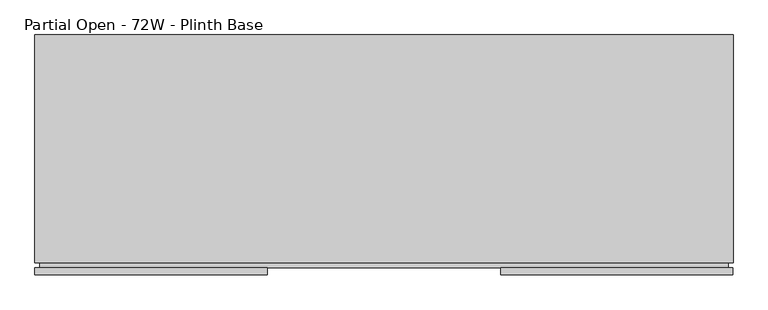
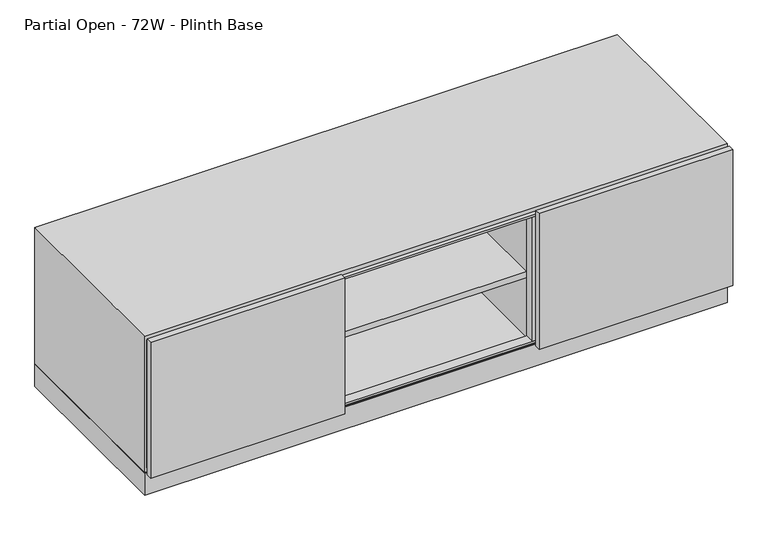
"""IFC4 building model written with IfcOpenShell, lengths in millimetres: furniture geometry, Steelcase Coalesse - Exponents - Storage - Credenza - 21H : Partial Open - 72W - Plinth Base."""

from ifc_helpers import new_model, si_unit, point, frame, frame_2d, origin, origin_with_axes, place, context, project, spatial, polyline, circle_curve, trimmed, segment, composite_curve, outline, extrude, faceted_brep, source, transform, mapped, element, save


def partial_open_72w_plinth_base_0df8217b(model_context):
    return source(origin(), model_context, "Body", "SolidModel", [
        faceted_brep([(6.35, 31.75, 520.7), (6.35, 31.75, 95.25), (6.35, 622.3, 95.25), (6.35, 622.3, 520.7), (1822.45, 622.3, 95.25), (1822.45, 622.3, 520.7), (1822.45, 31.75, 95.25), (1822.45, 31.75, 520.7), (0.0, 31.75, 82.55), (1828.8, 31.75, 82.55), (1828.8, 31.75, 533.4), (0.0, 31.75, 533.4), (1828.8, 628.65, 82.55), (1828.8, 628.65, 533.4), (0.0, 628.65, 82.55), (0.0, 628.65, 533.4)], [[[0, 1, 2, 3]], [[3, 2, 4, 5]], [[5, 4, 6, 7]], [[8, 9, 10, 11], [7, 6, 1, 0]], [[10, 9, 12, 13]], [[13, 12, 14, 15]], [[15, 14, 8, 11]], [[7, 0, 3, 5]], [[10, 13, 15, 11]], [[1, 6, 4, 2]], [[12, 9, 8, 14]]]),
        extrude(outline(polyline([(520.7, 1816.1), (520.7, 12.7), (95.25, 12.7), (95.25, 1816.1), (520.7, 1816.1)]), holes=[polyline([(514.35, 1809.75), (101.6, 1809.75), (101.6, 19.05), (514.35, 19.05), (514.35, 1809.75)])]), frame((0.0, 19.05, 0.0), z_axis=(0.0, 1.0, 0.0), x_axis=(0.0, 0.0, 1.0)), (0.0, 0.0, 1.0), 31.75),
        extrude(outline(composite_curve([segment(trimmed(circle_curve(frame_2d((19.05, 593.5667033)), 6.35), [point((12.7, 593.5667033))], [point((25.4, 593.5667033))], False, "CARTESIAN"), True, "CONTINUOUS"), segment(trimmed(circle_curve(frame_2d((19.05, 593.5667033)), 6.35), [point((25.4, 593.5667033))], [point((12.7, 593.5667033))], False, "CARTESIAN"), True, "CONTINUOUS")], self_intersect=False)), origin_with_axes(), (0.0, 0.0, 1.0), 6.35),
        extrude(outline(composite_curve([segment(trimmed(circle_curve(frame_2d((19.05, 66.7867854)), 6.35), [point((12.7, 66.7867854))], [point((25.4, 66.7867854))], False, "CARTESIAN"), True, "CONTINUOUS"), segment(trimmed(circle_curve(frame_2d((19.05, 66.7867854)), 6.35), [point((25.4, 66.7867854))], [point((12.7, 66.7867854))], False, "CARTESIAN"), True, "CONTINUOUS")], self_intersect=False)), origin_with_axes(), (0.0, 0.0, 1.0), 6.35),
        extrude(outline(composite_curve([segment(trimmed(circle_curve(frame_2d((1809.75, 593.5667033)), 6.35), [point((1803.4, 593.5667033))], [point((1816.1, 593.5667033))], False, "CARTESIAN"), True, "CONTINUOUS"), segment(trimmed(circle_curve(frame_2d((1809.75, 593.5667033)), 6.35), [point((1816.1, 593.5667033))], [point((1803.4, 593.5667033))], False, "CARTESIAN"), True, "CONTINUOUS")], self_intersect=False)), origin_with_axes(), (0.0, 0.0, 1.0), 6.35),
        extrude(outline(composite_curve([segment(trimmed(circle_curve(frame_2d((1809.75, 66.7867854)), 6.35), [point((1803.4, 66.7867854))], [point((1816.1, 66.7867854))], False, "CARTESIAN"), True, "CONTINUOUS"), segment(trimmed(circle_curve(frame_2d((1809.75, 66.7867854)), 6.35), [point((1816.1, 66.7867854))], [point((1803.4, 66.7867854))], False, "CARTESIAN"), True, "CONTINUOUS")], self_intersect=False)), origin_with_axes(), (0.0, 0.0, 1.0), 6.35),
        extrude(outline(polyline([(1827.8348, 19.05), (1827.8348, 0.0), (1220.0128, 0.0), (1220.0128, 19.05), (1827.8348, 19.05)])), frame((0.0, 0.0, 82.55), z_axis=(0.0, 0.0, 1.0), x_axis=(1.0, 0.0, 0.0)), (0.0, 0.0, 1.0), 450.85),
        extrude(outline(polyline([(608.965, 19.05), (608.965, 0.0), (0.0, 0.0), (0.0, 19.05), (608.965, 19.05)])), frame((0.0, 0.0, 82.55), z_axis=(0.0, 0.0, 1.0), x_axis=(1.0, 0.0, 0.0)), (0.0, 0.0, 1.0), 450.85),
        extrude(outline(polyline([(0.0, -19.05), (0.0, 0.0), (31.75, 0.0), (31.75, -19.05), (0.0, -19.05)])), frame((1209.675, 19.05, 101.6), z_axis=(3.1477043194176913e-12, 0.0, 1.0), x_axis=(0.0, 1.0, 0.0)), (0.0, 0.0, 1.0), 412.75),
        extrude(outline(polyline([(0.0, -19.05), (0.0, 0.0), (31.75, 0.0), (31.75, -19.05), (0.0, -19.05)])), frame((590.55, 19.05, 101.6), z_axis=(3.3608671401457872e-12, 0.0, 1.0), x_axis=(0.0, 1.0, 0.0)), (0.0, 0.0, 1.0), 412.75),
        extrude(outline(polyline([(1209.675, 609.6), (1228.725, 609.6), (1228.725, 50.8), (1209.675, 50.8), (1209.675, 609.6)])), frame((0.0, 0.0, 95.25), z_axis=(0.0, 0.0, 1.0), x_axis=(1.0, 0.0, 0.0)), (0.0, 0.0, 1.0), 425.45),
        extrude(outline(polyline([(1209.675, 50.8), (609.6, 50.8), (609.6, 609.6), (1209.675, 609.6), (1209.675, 50.8)])), frame((0.0, 0.0, 295.275), z_axis=(0.0, 0.0, 1.0), x_axis=(1.0, 0.0, 0.0)), (0.0, 0.0, 1.0), 19.05),
        extrude(outline(polyline([(1828.8, 628.65), (1828.8, 31.75), (0.0, 31.75), (0.0, 628.65), (1828.8, 628.65)]), holes=[polyline([(1809.75, 622.3), (19.05, 622.3), (19.05, 38.1), (1809.75, 38.1), (1809.75, 622.3)])]), frame((0.0, 0.0, 6.35), z_axis=(0.0, 0.0, 1.0), x_axis=(1.0, 0.0, 0.0)), (0.0, 0.0, 1.0), 73.4568),
        extrude(outline(polyline([(590.55, 609.6), (609.6, 609.6), (609.6, 50.8), (590.55, 50.8), (590.55, 609.6)])), frame((0.0, 0.0, 95.25), z_axis=(0.0, 0.0, 1.0), x_axis=(1.0, 0.0, 0.0)), (0.0, 0.0, 1.0), 425.45),
    ])


if __name__ == "__main__":
    model = new_model("IFC4")
    model_context = context("Model", 3, world=origin())
    ifc_project = project(units=[si_unit("LENGTHUNIT", "METRE", prefix="MILLI")], contexts=[model_context])
    site = spatial("IfcSite", under=ifc_project)
    building = spatial("IfcBuilding", under=site)
    placement = place(None, origin())
    partial_open_72w_plinth_base_shape = partial_open_72w_plinth_base_0df8217b(model_context)
    element("IfcFurniture", 1, ObjectType="Steelcase Coalesse - Exponents - Storage - Credenza - 21H : Partial Open - 72W - Plinth Base", at=placement, inside=building, context=model_context, shape_type="MappedRepresentation", body=[
        mapped(partial_open_72w_plinth_base_shape, transform((0.0, 0.0, 0.0), x_axis=(1.0, 0.0, 0.0), y_axis=(0.0, 1.0, 0.0), z_axis=(0.0, 0.0, 1.0))),
    ])
    save(model, "model.ifc")
